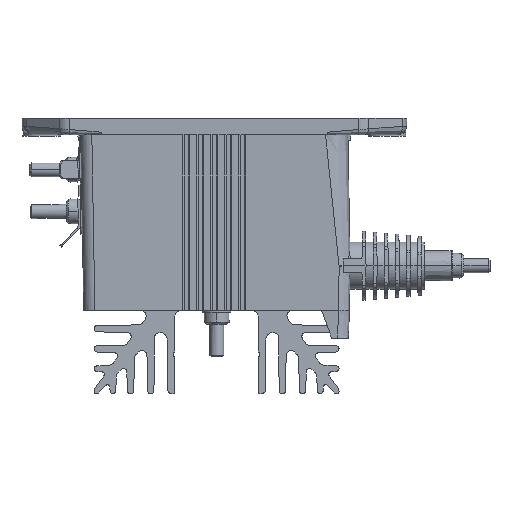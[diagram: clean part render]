
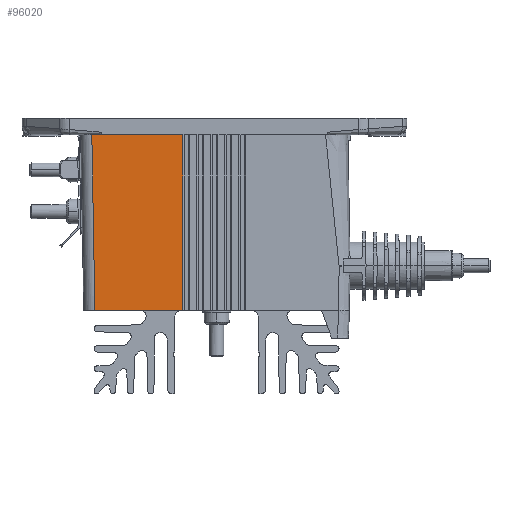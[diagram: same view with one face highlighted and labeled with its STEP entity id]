
A CAD part, left-side view. The second image highlights one B-rep face of the part: STEP entity #96020.
In plain terms, the highlighted planar face has unit normal (-1, 0, -0.018).
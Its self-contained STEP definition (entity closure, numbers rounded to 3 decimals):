
#9270=CARTESIAN_POINT('',(-29.918,41.918,-25.));
#9280=VERTEX_POINT('',#9270);
#9310=CARTESIAN_POINT('',(-29.918,0.,-25.));
#9320=DIRECTION('',(0.,1.,0.));
#9330=VECTOR('',#9320,1.);
#9340=LINE('',#9310,#9330);
#9350=CARTESIAN_POINT('',(-29.918,10.284,-25.));
#9360=VERTEX_POINT('',#9350);
#9370=EDGE_CURVE('',#9360,#9280,#9340,.T.);
#34080=CARTESIAN_POINT('',(-31.,0.,37.));
#34090=DIRECTION('',(1.,0.,0.017));
#34100=DIRECTION('',(0.,-1.,0.));
#34110=AXIS2_PLACEMENT_3D('',#34080,#34090,#34100);
#34120=PLANE('',#34110);
#91800=CARTESIAN_POINT('',(-30.354,10.284,0.));
#91810=DIRECTION('',(-0.017,0.,
1.));
#91820=VECTOR('',#91810,1.);
#91830=LINE('',#91800,#91820);
#91840=CARTESIAN_POINT('',(-31.017,10.284,38.));
#91850=VERTEX_POINT('',#91840);
#91860=EDGE_CURVE('',#9360,#91850,#91830,.T.);
#95840=ORIENTED_EDGE('',*,*,#9370,.F.);
#95850=CARTESIAN_POINT('',(-30.388,42.388,
1.93));
#95860=DIRECTION('',(-0.017,0.017,
1.));
#95870=VECTOR('',#95860,1.);
#95880=LINE('',#95850,#95870);
#95890=CARTESIAN_POINT('',(-31.017,43.018,38.));
#95900=VERTEX_POINT('',#95890);
#95910=EDGE_CURVE('',#9280,#95900,#95880,.T.);
#95920=ORIENTED_EDGE('',*,*,#95910,.F.);
#95930=CARTESIAN_POINT('',(-31.017,0.,38.));
#95940=DIRECTION('',(0.,1.,0.));
#95950=VECTOR('',#95940,1.);
#95960=LINE('',#95930,#95950);
#95970=EDGE_CURVE('',#91850,#95900,#95960,.T.);
#95980=ORIENTED_EDGE('',*,*,#95970,.T.);
#95990=ORIENTED_EDGE('',*,*,#91860,.T.);
#96000=EDGE_LOOP('',(#95990,#95980,#95920,#95840));
#96010=FACE_OUTER_BOUND('',#96000,.T.);
#96020=ADVANCED_FACE('',(#96010),#34120,.F.);
